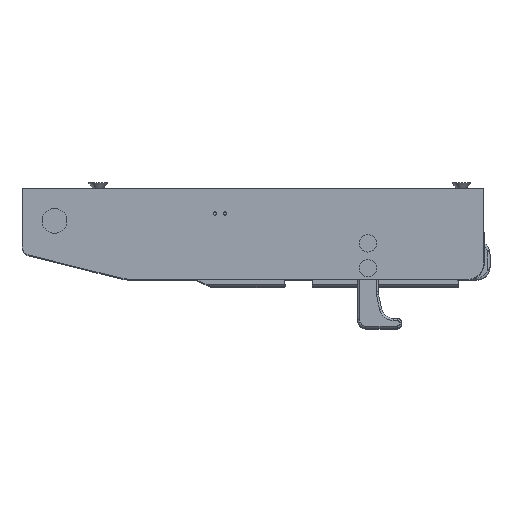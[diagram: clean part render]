
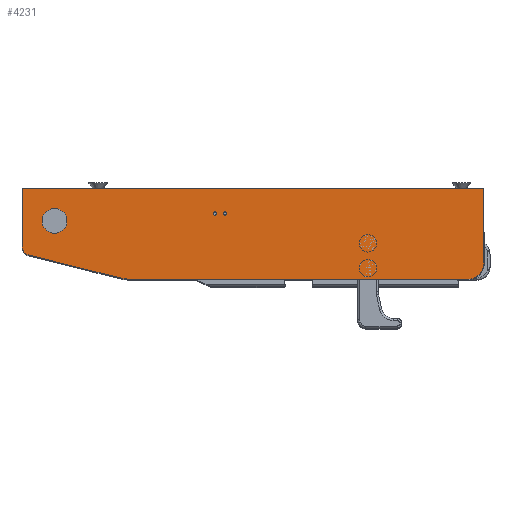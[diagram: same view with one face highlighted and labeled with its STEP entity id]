
A CAD part, top view. The second image highlights one B-rep face of the part: STEP entity #4231.
In plain terms, the highlighted planar face has unit normal (0, 0, 1).
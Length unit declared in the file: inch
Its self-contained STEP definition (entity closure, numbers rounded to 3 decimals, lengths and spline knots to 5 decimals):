
#4135=CARTESIAN_POINT('',(0.76424,-0.6602,0.97067));
#4136=DIRECTION('',(0.0,0.0,-1.0));
#4137=DIRECTION('',(1.0,0.0,0.0));
#4138=AXIS2_PLACEMENT_3D('',#4135,#4136,#4137);
#4139=PLANE('',#4138);
#4140=CARTESIAN_POINT('',(-1.21168,-1.37795,0.97067));
#4141=VERTEX_POINT('',#4140);
#4142=CARTESIAN_POINT('',(-1.39358,-1.35556,0.97067));
#4143=VERTEX_POINT('',#4142);
#4144=CARTESIAN_POINT('',(-1.21168,-0.62795,0.97067));
#4145=DIRECTION('',(0.,0.,-1.));
#4146=DIRECTION('',(-0.122,-0.993,0.));
#4147=AXIS2_PLACEMENT_3D('',#4144,#4145,#4146);
#4148=CIRCLE('',#4147,0.75);
#4149=EDGE_CURVE('',#4141,#4143,#4148,.T.);
#4150=ORIENTED_EDGE('',*,*,#4149,.F.);
#4151=CARTESIAN_POINT('',(3.85493,-1.37795,0.97067));
#4152=VERTEX_POINT('',#4151);
#4153=CARTESIAN_POINT('',(3.85493,-1.37795,0.97067));
#4154=DIRECTION('',(-1.0,0.0,0.0));
#4155=VECTOR('',#4154,5.06661);
#4156=LINE('',#4153,#4155);
#4157=EDGE_CURVE('',#4152,#4141,#4156,.T.);
#4158=ORIENTED_EDGE('',*,*,#4157,.F.);
#4159=CARTESIAN_POINT('',(4.10493,-1.12795,0.97067));
#4160=VERTEX_POINT('',#4159);
#4161=CARTESIAN_POINT('',(3.85493,-1.12795,0.97067));
#4162=DIRECTION('',(0.,0.,-1.0));
#4163=DIRECTION('',(0.707,-0.707,0.));
#4164=AXIS2_PLACEMENT_3D('',#4161,#4162,#4163);
#4165=CIRCLE('',#4164,0.25);
#4166=EDGE_CURVE('',#4160,#4152,#4165,.T.);
#4167=ORIENTED_EDGE('',*,*,#4166,.F.);
#4168=CARTESIAN_POINT('',(4.10493,0.,0.97067));
#4169=VERTEX_POINT('',#4168);
#4170=CARTESIAN_POINT('',(4.10493,-1.12795,0.97067));
#4171=DIRECTION('',(0.0,1.0,0.0));
#4172=VECTOR('',#4171,1.12795);
#4173=LINE('',#4170,#4172);
#4174=EDGE_CURVE('',#4160,#4169,#4173,.T.);
#4175=ORIENTED_EDGE('',*,*,#4174,.T.);
#4176=CARTESIAN_POINT('',(-2.87881,0.,0.97067));
#4177=VERTEX_POINT('',#4176);
#4178=CARTESIAN_POINT('',(-2.87881,0.,0.97067));
#4179=DIRECTION('',(1.0,0.0,0.0));
#4180=VECTOR('',#4179,6.98374);
#4181=LINE('',#4178,#4180);
#4182=EDGE_CURVE('',#4177,#4169,#4181,.T.);
#4183=ORIENTED_EDGE('',*,*,#4182,.F.);
#4184=CARTESIAN_POINT('',(-2.87881,-0.88665,0.97067));
#4185=VERTEX_POINT('',#4184);
#4186=CARTESIAN_POINT('',(-2.87881,-0.88665,0.97067));
#4187=DIRECTION('',(0.0,1.0,0.0));
#4188=VECTOR('',#4187,0.88665);
#4189=LINE('',#4186,#4188);
#4190=EDGE_CURVE('',#4185,#4177,#4189,.T.);
#4191=ORIENTED_EDGE('',*,*,#4190,.F.);
#4192=CARTESIAN_POINT('',(-2.78413,-1.00792,0.97067));
#4193=VERTEX_POINT('',#4192);
#4194=CARTESIAN_POINT('',(-2.75381,-0.88665,0.97067));
#4195=DIRECTION('',(0.,0.,-1.0));
#4196=DIRECTION('',(-0.788,-0.615,0.));
#4197=AXIS2_PLACEMENT_3D('',#4194,#4195,#4196);
#4198=CIRCLE('',#4197,0.125);
#4199=EDGE_CURVE('',#4193,#4185,#4198,.T.);
#4200=ORIENTED_EDGE('',*,*,#4199,.F.);
#4201=CARTESIAN_POINT('',(-1.39358,-1.35556,0.97067));
#4202=DIRECTION('',(-0.97,0.243,0.));
#4203=VECTOR('',#4202,1.43334);
#4204=LINE('',#4201,#4203);
#4205=EDGE_CURVE('',#4143,#4193,#4204,.T.);
#4206=ORIENTED_EDGE('',*,*,#4205,.F.);
#4207=EDGE_LOOP('',(#4150,#4158,#4167,#4175,#4183,#4191,#4200,#4206));
#4208=FACE_OUTER_BOUND('',#4207,.T.);
#4209=CARTESIAN_POINT('',(0.16688,-0.38195,0.97067));
#4210=VERTEX_POINT('',#4209);
#4211=CARTESIAN_POINT('',(0.19188,-0.38195,0.97067));
#4212=DIRECTION('',(0.0,0.0,-1.0));
#4213=DIRECTION('',(1.0,0.0,0.0));
#4214=AXIS2_PLACEMENT_3D('',#4211,#4212,#4213);
#4215=CIRCLE('',#4214,0.025);
#4216=EDGE_CURVE('',#4210,#4210,#4215,.T.);
#4217=ORIENTED_EDGE('',*,*,#4216,.T.);
#4218=EDGE_LOOP('',(#4217));
#4219=FACE_BOUND('',#4218,.T.);
#4220=CARTESIAN_POINT('',(0.00988,-0.38195,0.97067));
#4221=VERTEX_POINT('',#4220);
#4222=CARTESIAN_POINT('',(0.03488,-0.38195,0.97067));
#4223=DIRECTION('',(0.0,0.0,-1.0));
#4224=DIRECTION('',(1.0,0.0,0.0));
#4225=AXIS2_PLACEMENT_3D('',#4222,#4223,#4224);
#4226=CIRCLE('',#4225,0.025);
#4227=EDGE_CURVE('',#4221,#4221,#4226,.T.);
#4228=ORIENTED_EDGE('',*,*,#4227,.T.);
#4229=EDGE_LOOP('',(#4228));
#4230=FACE_BOUND('',#4229,.T.);
#4231=ADVANCED_FACE('',(#4208,#4219,#4230),#4139,.F.);
